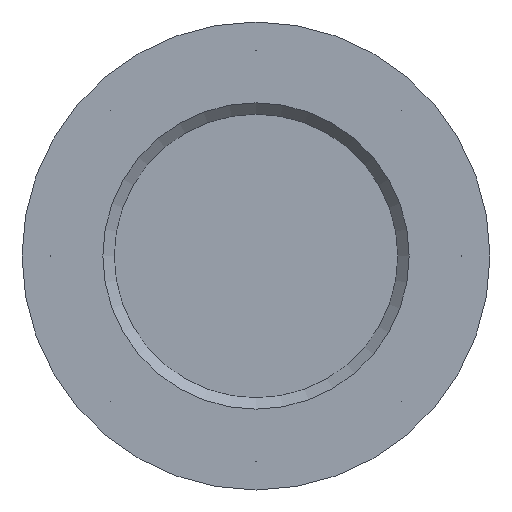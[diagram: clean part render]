
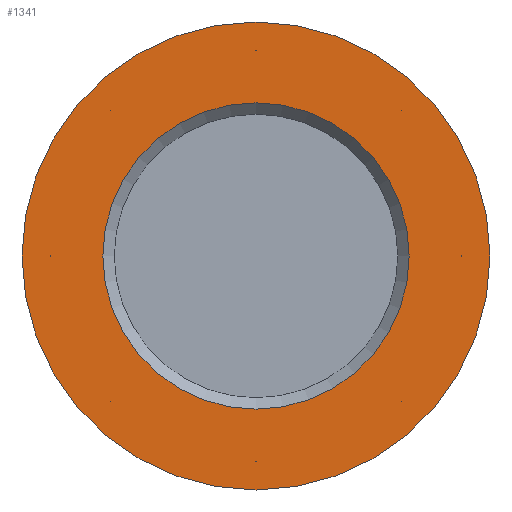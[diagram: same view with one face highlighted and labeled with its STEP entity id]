
A CAD part, front view. The second image highlights one B-rep face of the part: STEP entity #1341.
In plain terms, the highlighted planar face has unit normal (0, -1, 0).
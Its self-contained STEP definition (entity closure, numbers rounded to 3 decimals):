
#188=PLANE('',#1788);
#315=ORIENTED_EDGE('',*,*,#547,.T.);
#316=ORIENTED_EDGE('',*,*,#548,.T.);
#317=ORIENTED_EDGE('',*,*,#549,.T.);
#318=ORIENTED_EDGE('',*,*,#550,.T.);
#319=ORIENTED_EDGE('',*,*,#551,.T.);
#320=ORIENTED_EDGE('',*,*,#552,.T.);
#321=ORIENTED_EDGE('',*,*,#553,.T.);
#322=ORIENTED_EDGE('',*,*,#554,.T.);
#323=ORIENTED_EDGE('',*,*,#555,.T.);
#324=ORIENTED_EDGE('',*,*,#556,.F.);
#547=EDGE_CURVE('',#687,#687,#809,.T.);
#548=EDGE_CURVE('',#688,#688,#810,.T.);
#549=EDGE_CURVE('',#689,#689,#811,.T.);
#550=EDGE_CURVE('',#690,#690,#812,.T.);
#551=EDGE_CURVE('',#691,#691,#813,.T.);
#552=EDGE_CURVE('',#692,#692,#814,.T.);
#553=EDGE_CURVE('',#693,#693,#815,.T.);
#554=EDGE_CURVE('',#694,#694,#816,.T.);
#555=EDGE_CURVE('',#695,#695,#817,.T.);
#556=EDGE_CURVE('',#696,#696,#818,.T.);
#687=VERTEX_POINT('',#2525);
#688=VERTEX_POINT('',#2527);
#689=VERTEX_POINT('',#2529);
#690=VERTEX_POINT('',#2531);
#691=VERTEX_POINT('',#2533);
#692=VERTEX_POINT('',#2535);
#693=VERTEX_POINT('',#2537);
#694=VERTEX_POINT('',#2539);
#695=VERTEX_POINT('',#2541);
#696=VERTEX_POINT('',#2543);
#809=CIRCLE('',#1789,54.);
#810=CIRCLE('',#1790,0.004);
#811=CIRCLE('',#1791,0.004);
#812=CIRCLE('',#1792,0.004);
#813=CIRCLE('',#1793,0.004);
#814=CIRCLE('',#1794,0.004);
#815=CIRCLE('',#1795,0.004);
#816=CIRCLE('',#1796,0.004);
#817=CIRCLE('',#1797,0.004);
#818=CIRCLE('',#1798,82.5);
#961=EDGE_LOOP('',(#315));
#962=EDGE_LOOP('',(#316));
#963=EDGE_LOOP('',(#317));
#964=EDGE_LOOP('',(#318));
#965=EDGE_LOOP('',(#319));
#966=EDGE_LOOP('',(#320));
#967=EDGE_LOOP('',(#321));
#968=EDGE_LOOP('',(#322));
#969=EDGE_LOOP('',(#323));
#970=EDGE_LOOP('',(#324));
#1165=FACE_BOUND('',#961,.T.);
#1166=FACE_BOUND('',#962,.T.);
#1167=FACE_BOUND('',#963,.T.);
#1168=FACE_BOUND('',#964,.T.);
#1169=FACE_BOUND('',#965,.T.);
#1170=FACE_BOUND('',#966,.T.);
#1171=FACE_BOUND('',#967,.T.);
#1172=FACE_BOUND('',#968,.T.);
#1173=FACE_BOUND('',#969,.T.);
#1174=FACE_BOUND('',#970,.T.);
#1341=ADVANCED_FACE('',(#1165,#1166,#1167,#1168,#1169,#1170,#1171,#1172,
#1173,#1174),#188,.F.);
#1788=AXIS2_PLACEMENT_3D('',#2523,#2111,#2112);
#1789=AXIS2_PLACEMENT_3D('',#2524,#2113,#2114);
#1790=AXIS2_PLACEMENT_3D('',#2526,#2115,#2116);
#1791=AXIS2_PLACEMENT_3D('',#2528,#2117,#2118);
#1792=AXIS2_PLACEMENT_3D('',#2530,#2119,#2120);
#1793=AXIS2_PLACEMENT_3D('',#2532,#2121,#2122);
#1794=AXIS2_PLACEMENT_3D('',#2534,#2123,#2124);
#1795=AXIS2_PLACEMENT_3D('',#2536,#2125,#2126);
#1796=AXIS2_PLACEMENT_3D('',#2538,#2127,#2128);
#1797=AXIS2_PLACEMENT_3D('',#2540,#2129,#2130);
#1798=AXIS2_PLACEMENT_3D('',#2542,#2131,#2132);
#2111=DIRECTION('',(0.,1.,0.));
#2112=DIRECTION('',(0.,0.,1.));
#2113=DIRECTION('',(0.,1.,0.));
#2114=DIRECTION('',(0.,0.,1.));
#2115=DIRECTION('',(0.,1.,0.));
#2116=DIRECTION('',(0.,0.,1.));
#2117=DIRECTION('',(0.,1.,0.));
#2118=DIRECTION('',(0.,0.,1.));
#2119=DIRECTION('',(0.,1.,0.));
#2120=DIRECTION('',(0.,0.,1.));
#2121=DIRECTION('',(0.,1.,0.));
#2122=DIRECTION('',(0.,0.,1.));
#2123=DIRECTION('',(0.,1.,0.));
#2124=DIRECTION('',(0.,0.,1.));
#2125=DIRECTION('',(0.,1.,0.));
#2126=DIRECTION('',(0.,0.,1.));
#2127=DIRECTION('',(0.,1.,0.));
#2128=DIRECTION('',(0.,0.,1.));
#2129=DIRECTION('',(0.,1.,0.));
#2130=DIRECTION('',(0.,0.,1.));
#2131=DIRECTION('',(0.,1.,0.));
#2132=DIRECTION('',(0.,0.,1.));
#2523=CARTESIAN_POINT('',(0.,0.,0.));
#2524=CARTESIAN_POINT('',(0.,0.,0.));
#2525=CARTESIAN_POINT('',(0.,0.,54.));
#2526=CARTESIAN_POINT('',(51.265,0.,-51.265));
#2527=CARTESIAN_POINT('',(51.265,0.,-51.262));
#2528=CARTESIAN_POINT('',(72.5,0.,0.));
#2529=CARTESIAN_POINT('',(72.5,0.,0.004));
#2530=CARTESIAN_POINT('',(51.265,0.,51.265));
#2531=CARTESIAN_POINT('',(51.265,0.,51.269));
#2532=CARTESIAN_POINT('',(0.,0.,72.5));
#2533=CARTESIAN_POINT('',(0.,0.,72.504));
#2534=CARTESIAN_POINT('',(-51.265,0.,51.265));
#2535=CARTESIAN_POINT('',(-51.265,0.,51.269));
#2536=CARTESIAN_POINT('',(-72.5,0.,0.));
#2537=CARTESIAN_POINT('',(-72.5,0.,0.004));
#2538=CARTESIAN_POINT('',(-51.265,0.,-51.265));
#2539=CARTESIAN_POINT('',(-51.265,0.,-51.262));
#2540=CARTESIAN_POINT('',(0.,0.,-72.5));
#2541=CARTESIAN_POINT('',(0.,0.,-72.496));
#2542=CARTESIAN_POINT('',(0.,0.,0.));
#2543=CARTESIAN_POINT('',(0.,0.,82.5));
